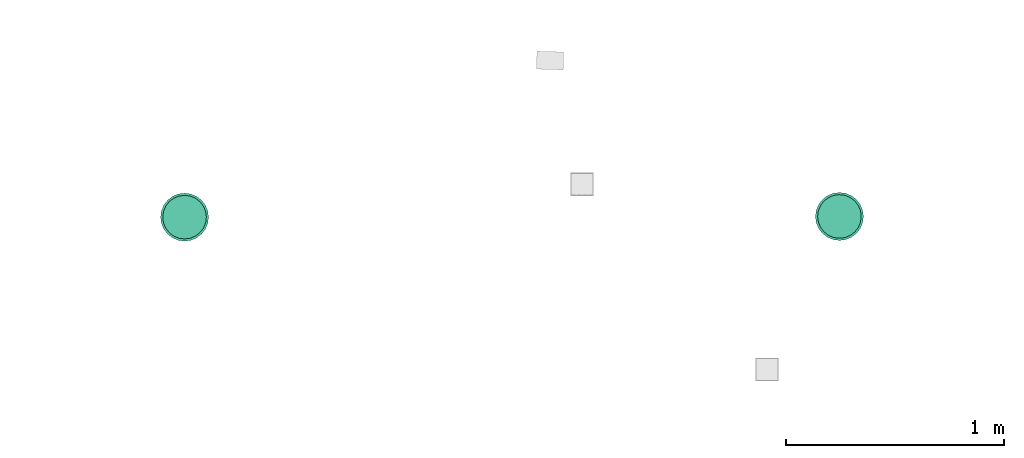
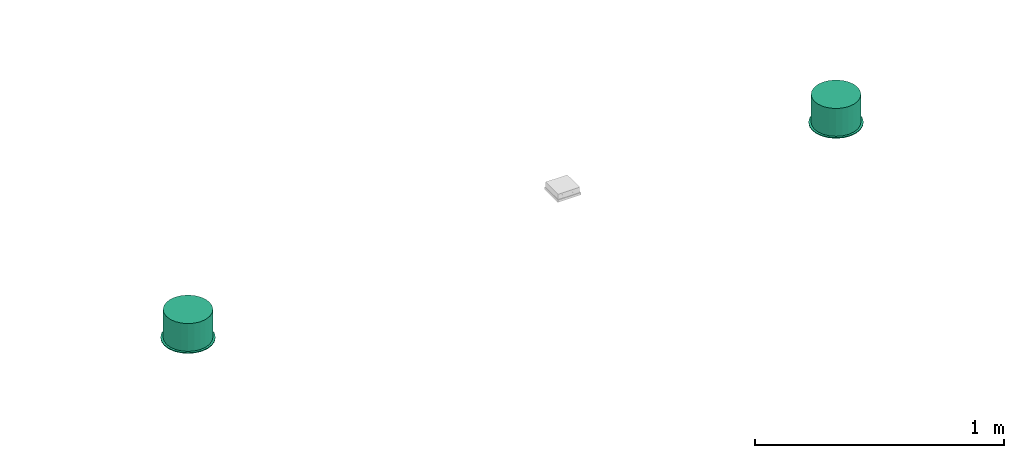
# One storey, part 2 of 9: 2 flow terminals.
"""IFC2X3 building model written with IfcOpenShell, lengths in millimetres."""

from ifc_helpers import new_model, entity, si_unit, converted_unit, derived_unit, direction, frame, origin, place, context, subcontext, project, spatial, faceted_brep, source, transform, mapped, material, type_object, element, save


model = new_model("IFC2X3")

# Units and contexts
model_context = context("Model", 3, precision=0.01, world=frame((0.0, 4.29681676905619e-09, 0.0)), true_north=direction((4.01073788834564e-13, 1.0)))
plan_context = context("Plan", 3, precision=0.01, world=frame((0.0, 4.29681676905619e-09, 0.0)), true_north=direction((4.01073788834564e-13, 1.0)))
body_context = subcontext(model_context, "Body", "Model", "MODEL_VIEW")
ifc_project = project(units=[converted_unit("PLANEANGLEUNIT", "DEGREE", entity("IfcPositiveLengthMeasure", 0.0174532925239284), si_unit("PLANEANGLEUNIT", "RADIAN"), dimensions=[0, 0, 0, 0, 0, 0, 0]), si_unit("AREAUNIT", "SQUARE_METRE"), si_unit("LENGTHUNIT", "METRE", prefix="MILLI"), si_unit("MASSUNIT", "GRAM", prefix="KILO"), si_unit("POWERUNIT", "WATT"), si_unit("PRESSUREUNIT", "PASCAL", prefix="KILO"), si_unit("FORCEUNIT", "NEWTON", prefix="KILO"), si_unit("ELECTRICVOLTAGEUNIT", "VOLT"), si_unit("ELECTRICCURRENTUNIT", "AMPERE"), si_unit("THERMODYNAMICTEMPERATUREUNIT", "DEGREE_CELSIUS"), si_unit("TIMEUNIT", "SECOND"), si_unit("VOLUMEUNIT", "CUBIC_METRE"), derived_unit("LINEARVELOCITYUNIT", [(si_unit("LENGTHUNIT", "METRE"), 1), (si_unit("TIMEUNIT", "SECOND"), -1)]), derived_unit("VOLUMETRICFLOWRATEUNIT", [(si_unit("VOLUMEUNIT", "CUBIC_METRE"), 1), (si_unit("TIMEUNIT", "SECOND"), -1)]), derived_unit("THERMALTRANSMITTANCEUNIT", [(si_unit("POWERUNIT", "WATT"), 1), (si_unit("THERMODYNAMICTEMPERATUREUNIT", "KELVIN"), -1), (si_unit("AREAUNIT", "SQUARE_METRE"), -1)]), derived_unit("SOUNDPRESSUREUNIT", [(si_unit("PRESSUREUNIT", "PASCAL"), 1)])], contexts=[model_context, plan_context])

# Site, building, storey
site_placement = place(None, frame((0.0, -4.29681676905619e-09, 0.0), z_axis=(0.0, 0.0, 1.0), x_axis=(1.0, 0.0, 0.0)))
site = spatial("IfcSite", under=ifc_project, at=site_placement, Name="Default", CompositionType="ELEMENT")
building_placement = place(site_placement, frame((0.0, 4.29681676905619e-09, 0.0), z_axis=(0.0, 0.0, 1.0), x_axis=(1.0, 0.0, 0.0)))
building = spatial("IfcBuilding", under=site, at=building_placement, CompositionType="ELEMENT")
storey_placement = place(building_placement, frame((0.0, 0.0, 210900.0), z_axis=(0.0, 0.0, 1.0), x_axis=(1.0, 0.0, 0.0)))
storey = spatial("IfcBuildingStorey", under=building, at=storey_placement, Name="Nivå F", CompositionType="ELEMENT", Elevation=210900.0)

# Flow terminals
ifc_material = material(Name="Zumtobel_Metal_White")
light_fixture_type = type_object("IfcLightFixtureType", Name="IB5402 Lysarmatur innfelt rund:IB5402 Zumtobel Panos INF E200HG 29W LED930 LDO WH", PredefinedType="NOTDEFINED", material=ifc_material)
shared_shape = source(origin(), body_context, "Body", "Brep", [
    faceted_brep([(-82.2724133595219, -47.4999999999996, 1.0), (-95.2627944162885, -55.0, 1.0), (-86.522270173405, -66.3908729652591, 1.0), (-91.7629534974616, -24.587809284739, 1.0), (-77.7817459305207, -77.7817459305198, 1.0), (-67.1751442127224, -67.1751442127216, 1.0), (-100.757317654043, -41.7350474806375, 1.0), (-106.251840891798, -28.4700949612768, 1.0), (-95.0, 0.0, 1.0), (-108.125920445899, -14.2350474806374, 1.0), (-110.0, 0.0, 1.0), (-91.7629534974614, 24.5878092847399, 1.0), (-108.125920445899, 14.2350474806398, 1.0), (-106.251840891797, 28.4700949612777, 1.0), (-82.2724133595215, 47.5000000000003, 1.0), (-100.757317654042, 41.7350474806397, 1.0), (-95.262794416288, 55.0, 1.0), (-67.1751442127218, 67.1751442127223, 1.0), (-86.5222701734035, 66.390872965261, 1.0), (-77.7817459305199, 77.7817459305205, 1.0), (-47.4999999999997, 82.2724133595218, 1.0), (-66.3908729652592, 86.5222701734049, 1.0), (-55.0, 95.2627944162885, 1.0), (-24.5878092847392, 91.7629534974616, 1.0), (-41.7350474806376, 100.757317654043, 1.0), (-28.4700949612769, 106.251840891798, 1.0), (0.0, 95.0, 1.0), (-11.3138767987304, 108.510499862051, 1.0), (0.0, 110.0, 1.0), (24.5878092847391, 91.7629534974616, 1.0), (11.3138780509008, 108.5104996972, 1.0), (28.4700949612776, 106.251840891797, 1.0), (47.4999999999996, 82.2724133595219, 1.0), (41.7350474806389, 100.757317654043, 1.0), (55.0, 95.2627944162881, 1.0), (66.3908729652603, 86.5222701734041, 1.0), (77.7817459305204, 77.78174593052, 1.0), (67.1751442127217, 67.1751442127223, 1.0), (86.5222701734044, 66.3908729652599, 1.0), (95.2627944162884, 55.0, 1.0), (82.2724133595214, 47.5000000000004, 1.0), (100.757317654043, 41.7350474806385, 1.0), (106.251840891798, 28.4700949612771, 1.0), (91.7629534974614, 24.58780928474, 1.0), (108.125920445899, 14.2350474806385, 1.0), (110.0, 0.0, 1.0), (95.0, 0.0, 1.0), (108.125920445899, -14.2350474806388, 1.0), (106.251840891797, -28.4700949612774, 1.0), (91.7629534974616, -24.5878092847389, 1.0), (100.757317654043, -41.7350474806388, 1.0), (95.2627944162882, -55.0, 1.0), (82.272413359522, -47.4999999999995, 1.0), (86.5222701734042, -66.3908729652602, 1.0), (77.7817459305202, -77.7817459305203, 1.0), (67.1751442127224, -67.1751442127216, 1.0), (66.3908729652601, -86.5222701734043, 1.0), (55.0, -95.2627944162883, 1.0), (47.5000000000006, -82.2724133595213, 1.0), (41.7350474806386, -100.757317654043, 1.0), (28.4700949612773, -106.251840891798, 1.0), (24.5878092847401, -91.7629534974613, 1.0), (11.3138768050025, -108.510499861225, 1.0), (0.0, -110.0, 1.0), (0.0, -95.0, 1.0), (-14.2350474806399, -108.125920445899, 1.0), (-28.4700949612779, -106.251840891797, 1.0), (-24.58780928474, -91.7629534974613, 1.0), (-41.7350474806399, -100.757317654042, 1.0), (-55.0, -95.2627944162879, 1.0), (-47.5000000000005, -82.2724133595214, 1.0), (-66.3908729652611, -86.5222701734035, 1.0), (82.272413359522, -47.4999999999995, -3.0), (95.2627944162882, -55.0, -3.0), (86.5222701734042, -66.3908729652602, -3.0), (91.7629534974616, -24.5878092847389, -3.0), (77.7817459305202, -77.7817459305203, -3.0), (67.1751442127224, -67.1751442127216, -3.0), (100.757317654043, -41.7350474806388, -3.0), (106.251840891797, -28.4700949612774, -3.0), (95.0, 0.0, -3.0), (108.125920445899, -14.2350474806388, -3.0), (110.0, 0.0, -3.0), (91.7629534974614, 24.58780928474, -3.0), (108.125920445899, 14.2350474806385, -3.0), (106.251840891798, 28.4700949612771, -3.0), (82.2724133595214, 47.5000000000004, -3.0), (100.757317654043, 41.7350474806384, -3.0), (95.2627944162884, 55.0, -3.0), (67.1751442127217, 67.1751442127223, -3.0), (86.5222701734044, 66.3908729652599, -3.0), (77.7817459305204, 77.78174593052, -3.0), (47.4999999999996, 82.2724133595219, -3.0), (66.3908729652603, 86.5222701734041, -3.0), (55.0, 95.2627944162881, -3.0), (24.5878092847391, 91.7629534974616, -3.0), (41.7350474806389, 100.757317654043, -3.0), (28.4700949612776, 106.251840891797, -3.0), (0.0, 95.0, -3.0), (14.2350474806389, 108.125920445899, -3.0), (0.0, 110.0, -3.0), (-24.5878092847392, 91.7629534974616, -3.0), (-14.2350474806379, 108.125920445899, -3.0), (-28.4700949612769, 106.251840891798, -3.0), (-47.4999999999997, 82.2724133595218, -3.0), (-41.7350474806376, 100.757317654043, -3.0), (-55.0, 95.2627944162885, -3.0), (-66.3908729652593, 86.5222701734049, -3.0), (-77.78174593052, 77.7817459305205, -3.0), (-67.1751442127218, 67.1751442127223, -3.0), (-86.5222701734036, 66.390872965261, -3.0), (-95.262794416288, 55.0, -3.0), (-82.2724133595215, 47.5000000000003, -3.0), (-100.757317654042, 41.7350474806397, -3.0), (-106.251840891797, 28.4700949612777, -3.0), (-91.7629534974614, 24.5878092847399, -3.0), (-108.125920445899, 14.2350474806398, -3.0), (-110.0, 0.0, -3.0), (-95.0, 0.0, -3.0), (-108.125920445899, -14.2350474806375, -3.0), (-106.251840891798, -28.4700949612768, -3.0), (-91.7629534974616, -24.587809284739, -3.0), (-100.757317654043, -41.7350474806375, -3.0), (-95.2627944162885, -55.0, -3.0), (-82.2724133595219, -47.4999999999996, -3.0), (-86.522270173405, -66.3908729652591, -3.0), (-77.7817459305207, -77.7817459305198, -3.0), (-67.1751442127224, -67.1751442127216, -3.0), (-66.3908729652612, -86.5222701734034, -3.0), (-55.0, -95.2627944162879, -3.0), (-47.5000000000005, -82.2724133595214, -3.0), (-41.7350474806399, -100.757317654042, -3.0), (-28.470094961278, -106.251840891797, -3.0), (-24.5878092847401, -91.7629534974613, -3.0), (-14.2350474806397, -108.125920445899, -3.0), (0.0, -110.0, -3.0), (0.0, -95.0, -3.0), (14.2350474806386, -108.125920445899, -3.0), (28.4700949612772, -106.251840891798, -3.0), (24.5878092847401, -91.7629534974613, -3.0), (41.7350474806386, -100.757317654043, -3.0), (55.0, -95.2627944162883, -3.0), (47.5000000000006, -82.2724133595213, -3.0), (66.39087296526, -86.5222701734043, -3.0)], [[[0, 1, 2]], [[1, 0, 3]], [[0, 2, 4]], [[0, 4, 5]], [[3, 6, 1]], [[3, 7, 6]], [[7, 3, 8]], [[8, 9, 7]], [[8, 10, 9]], [[10, 8, 11]], [[11, 12, 10]], [[11, 13, 12]], [[13, 11, 14]], [[14, 15, 13]], [[14, 16, 15]], [[17, 16, 14]], [[17, 18, 16]], [[17, 19, 18]], [[20, 19, 17]], [[20, 21, 19]], [[20, 22, 21]], [[20, 23, 22]], [[23, 24, 22]], [[23, 25, 24]], [[25, 23, 26]], [[26, 27, 25]], [[26, 28, 27]], [[26, 29, 28]], [[29, 30, 28]], [[29, 31, 30]], [[29, 32, 31]], [[32, 33, 31]], [[32, 34, 33]], [[32, 35, 34]], [[32, 36, 35]], [[32, 37, 36]], [[37, 38, 36]], [[37, 39, 38]], [[39, 37, 40]], [[40, 41, 39]], [[40, 42, 41]], [[43, 42, 40]], [[43, 44, 42]], [[43, 45, 44]], [[46, 45, 43]], [[46, 47, 45]], [[46, 48, 47]], [[49, 48, 46]], [[49, 50, 48]], [[49, 51, 50]], [[52, 51, 49]], [[52, 53, 51]], [[52, 54, 53]], [[54, 52, 55]], [[55, 56, 54]], [[55, 57, 56]], [[55, 58, 57]], [[58, 59, 57]], [[58, 60, 59]], [[58, 61, 60]], [[61, 62, 60]], [[61, 63, 62]], [[61, 64, 63]], [[64, 65, 63]], [[64, 66, 65]], [[67, 66, 64]], [[67, 68, 66]], [[67, 69, 68]], [[67, 70, 69]], [[70, 5, 69]], [[5, 71, 69]], [[5, 4, 71]], [[72, 73, 74]], [[73, 72, 75]], [[72, 74, 76]], [[72, 76, 77]], [[75, 78, 73]], [[75, 79, 78]], [[79, 75, 80]], [[80, 81, 79]], [[80, 82, 81]], [[82, 80, 83]], [[83, 84, 82]], [[83, 85, 84]], [[85, 83, 86]], [[86, 87, 85]], [[86, 88, 87]], [[89, 88, 86]], [[89, 90, 88]], [[89, 91, 90]], [[92, 91, 89]], [[92, 93, 91]], [[92, 94, 93]], [[92, 95, 94]], [[95, 96, 94]], [[95, 97, 96]], [[97, 95, 98]], [[98, 99, 97]], [[98, 100, 99]], [[98, 101, 100]], [[101, 102, 100]], [[101, 103, 102]], [[101, 104, 103]], [[104, 105, 103]], [[104, 106, 105]], [[104, 107, 106]], [[104, 108, 107]], [[104, 109, 108]], [[109, 110, 108]], [[109, 111, 110]], [[111, 109, 112]], [[112, 113, 111]], [[112, 114, 113]], [[115, 114, 112]], [[115, 116, 114]], [[115, 117, 116]], [[118, 117, 115]], [[118, 119, 117]], [[118, 120, 119]], [[121, 120, 118]], [[121, 122, 120]], [[121, 123, 122]], [[124, 123, 121]], [[124, 125, 123]], [[124, 126, 125]], [[126, 124, 127]], [[127, 128, 126]], [[127, 129, 128]], [[127, 130, 129]], [[130, 131, 129]], [[130, 132, 131]], [[130, 133, 132]], [[133, 134, 132]], [[133, 135, 134]], [[133, 136, 135]], [[136, 137, 135]], [[136, 138, 137]], [[139, 138, 136]], [[139, 140, 138]], [[139, 141, 140]], [[139, 142, 141]], [[142, 77, 141]], [[77, 143, 141]], [[77, 76, 143]], [[25, 27, 28, 100, 102, 103]], [[65, 66, 132, 134, 135, 63]], [[103, 105, 106, 22, 24, 25]], [[108, 110, 111, 16, 18, 19]], [[131, 132, 66, 68, 69, 129]], [[106, 107, 108, 19, 21, 22]], [[111, 113, 114, 13, 15, 16]], [[10, 12, 13, 114, 116, 117]], [[117, 119, 120, 7, 9, 10]], [[2, 1, 123, 125, 126, 4]], [[128, 129, 69, 71, 4, 126]], [[120, 122, 123, 1, 6, 7]], [[60, 62, 63, 135, 137, 138]], [[97, 31, 33, 34, 94, 96]], [[138, 140, 141, 57, 59, 60]], [[76, 74, 73, 51, 53, 54]], [[34, 35, 36, 91, 93, 94]], [[141, 143, 76, 54, 56, 57]], [[73, 78, 79, 48, 50, 51]], [[84, 85, 42, 44, 45, 82]], [[81, 82, 45, 47, 48, 79]], [[87, 88, 39, 41, 42, 85]], [[100, 28, 30, 31, 97, 99]], [[88, 90, 91, 36, 38, 39]], [[98, 26, 23, 101]], [[101, 23, 20, 104]], [[112, 109, 17, 14]], [[17, 109, 104, 20]], [[115, 112, 14, 11]], [[115, 11, 8, 118]], [[118, 8, 3, 121]], [[121, 3, 0, 124]], [[130, 127, 5, 70]], [[5, 127, 124, 0]], [[133, 130, 70, 67]], [[133, 67, 64, 136]], [[136, 64, 61, 139]], [[139, 61, 58, 142]], [[72, 77, 55, 52]], [[55, 77, 142, 58]], [[75, 72, 52, 49]], [[75, 49, 46, 80]], [[80, 46, 43, 83]], [[83, 43, 40, 86]], [[37, 89, 86, 40]], [[32, 92, 89, 37]], [[32, 29, 95, 92]], [[29, 26, 98, 95]]]),
    faceted_brep([(-25.8819045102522, -96.5925826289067, 137.0), (0.0, -100.0, 137.0), (25.8819045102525, -96.5925826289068, 137.0), (50.0, -86.6025403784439, 137.0), (70.7106781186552, -70.7106781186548, 137.0), (86.6025403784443, -50.0, 137.0), (96.5925826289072, -25.8819045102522, 137.0), (100.0, 0.0, 137.0), (96.5925826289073, 25.8819045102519, 137.0), (86.6025403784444, 50.0, 137.0), (70.7106781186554, 70.7106781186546, 137.0), (50.0, 86.6025403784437, 137.0), (25.8819045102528, 96.5925826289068, 137.0), (0.0, 100.0, 137.0), (-25.8819045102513, 96.5925826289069, 137.0), (-50.0, 86.6025403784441, 137.0), (-70.7106781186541, 70.710678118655, 137.0), (-86.6025403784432, 50.0, 137.0), (-96.5925826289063, 25.8819045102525, 137.0), (-100.0, 0.0, 137.0), (-96.5925826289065, -25.8819045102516, 137.0), (-86.6025403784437, -50.0, 137.0), (-70.7106781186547, -70.7106781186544, 137.0), (-50.0, -86.6025403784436, 137.0), (86.6025403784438, -50.0, 1.0), (70.7106781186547, -70.7106781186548, 1.0), (82.272413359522, -47.4999999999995, 1.0), (91.7629534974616, -24.5878092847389, 1.0), (96.5925826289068, -25.8819045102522, 1.0), (67.1751442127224, -67.1751442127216, 1.0), (50.0, -86.6025403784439, 1.0), (47.5000000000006, -82.2724133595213, 1.0), (24.5878092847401, -91.7629534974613, 1.0), (25.8819045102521, -96.5925826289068, 1.0), (0.0, -95.0, 1.0), (0.0, -100.0, 1.0), (-24.58780928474, -91.7629534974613, 1.0), (-25.8819045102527, -96.5925826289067, 1.0), (-47.5000000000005, -82.2724133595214, 1.0), (-50.0, -86.6025403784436, 1.0), (-67.1751442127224, -67.1751442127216, 1.0), (-70.7106781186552, -70.7106781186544, 1.0), (-82.2724133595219, -47.4999999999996, 1.0), (-86.6025403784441, -50.0, 1.0), (-91.7629534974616, -24.587809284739, 1.0), (-96.592582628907, -25.8819045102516, 1.0), (-95.0, 0.0, 1.0), (-100.0, 0.0, 1.0), (-91.7629534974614, 24.5878092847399, 1.0), (-96.5925826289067, 25.8819045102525, 1.0), (-82.2724133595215, 47.5000000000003, 1.0), (-86.6025403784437, 50.0, 1.0), (-67.1751442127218, 67.1751442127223, 1.0), (-70.7106781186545, 70.710678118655, 1.0), (-47.4999999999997, 82.2724133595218, 1.0), (-50.0, 86.6025403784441, 1.0), (-25.8819045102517, 96.5925826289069, 1.0), (-24.5878092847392, 91.7629534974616, 1.0), (0.0, 100.0, 1.0), (0.0, 95.0, 1.0), (25.8819045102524, 96.5925826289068, 1.0), (24.5878092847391, 91.7629534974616, 1.0), (50.0, 86.6025403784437, 1.0), (47.4999999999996, 82.2724133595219, 1.0), (70.7106781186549, 70.7106781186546, 1.0), (67.1751442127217, 67.1751442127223, 1.0), (86.602540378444, 50.0, 1.0), (82.2724133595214, 47.5000000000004, 1.0), (96.5925826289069, 25.8819045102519, 1.0), (91.7629534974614, 24.58780928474, 1.0), (100.0, 0.0, 1.0), (95.0, 0.0, 1.0), (-91.7629534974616, -24.587809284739, 7.0), (-95.0, 0.0, 7.0), (-91.7629534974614, 24.5878092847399, 7.0), (-82.2724133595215, 47.5000000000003, 7.0), (-67.1751442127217, 67.1751442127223, 7.0), (-47.4999999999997, 82.2724133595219, 7.0), (-24.5878092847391, 91.7629534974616, 7.0), (0.0, 95.0, 7.0), (24.5878092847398, 91.7629534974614, 7.0), (47.5000000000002, 82.2724133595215, 7.0), (67.1751442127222, 67.1751442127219, 7.0), (82.2724133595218, 47.4999999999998, 7.0), (91.7629534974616, 24.5878092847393, 7.0), (95.0, 0.0, 7.0), (91.7629534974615, -24.5878092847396, 7.0), (82.2724133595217, -47.5000000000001, 7.0), (67.175144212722, -67.1751442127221, 7.0), (47.5, -82.2724133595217, 7.0), (24.5878092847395, -91.7629534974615, 7.0), (0.0, -95.0, 7.0), (-24.58780928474, -91.7629534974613, 7.0), (-47.5000000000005, -82.2724133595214, 7.0), (-67.1751442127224, -67.1751442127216, 7.0), (-82.2724133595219, -47.4999999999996, 7.0)], [[[0, 1, 2, 3, 4, 5, 6, 7, 8, 9, 10, 11, 12, 13, 14, 15, 16, 17, 18, 19, 20, 21, 22, 23]], [[24, 25, 26]], [[24, 26, 27]], [[27, 28, 24]], [[26, 25, 29]], [[30, 29, 25]], [[29, 30, 31]], [[31, 30, 32]], [[33, 32, 30]], [[33, 34, 32]], [[34, 33, 35]], [[36, 34, 35]], [[35, 37, 36]], [[36, 37, 38]], [[39, 38, 37]], [[38, 39, 40]], [[40, 39, 41]], [[42, 40, 41]], [[41, 43, 42]], [[42, 43, 44]], [[45, 44, 43]], [[44, 45, 46]], [[46, 45, 47]], [[46, 47, 48]], [[48, 47, 49]], [[48, 49, 50]], [[51, 50, 49]], [[52, 50, 51]], [[52, 51, 53]], [[53, 54, 52]], [[55, 54, 53]], [[54, 55, 56]], [[56, 57, 54]], [[58, 57, 56]], [[58, 59, 57]], [[60, 59, 58]], [[60, 61, 59]], [[61, 60, 62]], [[62, 63, 61]], [[63, 62, 64]], [[63, 64, 65]], [[64, 66, 65]], [[67, 65, 66]], [[67, 66, 68]], [[68, 69, 67]], [[70, 69, 68]], [[28, 71, 70]], [[70, 71, 69]], [[28, 27, 71]], [[14, 56, 55, 15]], [[53, 16, 15, 55]], [[17, 51, 49, 18]], [[53, 51, 17, 16]], [[18, 49, 47, 19]], [[56, 14, 13, 58]], [[20, 45, 43, 21]], [[41, 22, 21, 43]], [[23, 39, 37, 0]], [[41, 39, 23, 22]], [[0, 37, 35, 1]], [[45, 20, 19, 47]], [[2, 1, 35, 33]], [[3, 2, 33, 30]], [[5, 24, 28, 6]], [[70, 7, 6, 28]], [[25, 4, 3, 30]], [[25, 24, 5, 4]], [[8, 68, 66, 9]], [[64, 10, 9, 66]], [[11, 62, 60, 12]], [[64, 62, 11, 10]], [[12, 60, 58, 13]], [[68, 8, 7, 70]], [[72, 73, 74, 75, 76, 77, 78, 79, 80, 81, 82, 83, 84, 85, 86, 87, 88, 89, 90, 91, 92, 93, 94, 95]], [[77, 54, 57, 78]], [[78, 57, 59, 79]], [[74, 48, 50, 75]], [[75, 50, 52, 76]], [[76, 52, 54, 77]], [[48, 74, 73, 46]], [[94, 40, 42, 95]], [[95, 42, 44, 72]], [[91, 34, 36, 92]], [[92, 36, 38, 93]], [[93, 38, 40, 94]], [[46, 73, 72, 44]], [[89, 31, 32, 90]], [[90, 32, 34, 91]], [[86, 27, 26, 87]], [[87, 26, 29, 88]], [[88, 29, 31, 89]], [[27, 86, 85, 71]], [[65, 67, 83, 82]], [[67, 69, 84, 83]], [[61, 63, 81, 80]], [[81, 63, 65, 82]], [[59, 61, 80, 79]], [[71, 85, 84, 69]]]),
])
for number, where, z_axis, x_axis in (
    (1, (724500.000000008, 443999.999999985, 2781.25), (0.0, 0.0, 1.0), (1.0, 0.0, 0.0)),
    (2, (727502.245065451, 444003.10535666, 2781.25), (0.0, 0.0, 1.0), (1.0, 0.0, 0.0)),
):
    element("IfcFlowTerminal", number, at=place(storey_placement, frame(where, z_axis=z_axis, x_axis=x_axis)), inside=storey, type_object=light_fixture_type, material=ifc_material, Name="IB5402 Lysarmatur innfelt rund:IB5402 Zumtobel Panos INF E200HG 29W LED930 LDO WH", ObjectType="IB5402 Lysarmatur innfelt rund:IB5402 Zumtobel Panos INF E200HG 29W LED930 LDO WH", context=body_context, shape_type="MappedRepresentation", body=[
        mapped(shared_shape, transform((0.0, 0.0, 0.0), scale=1.0)),
    ])

save(model, "model.ifc")
